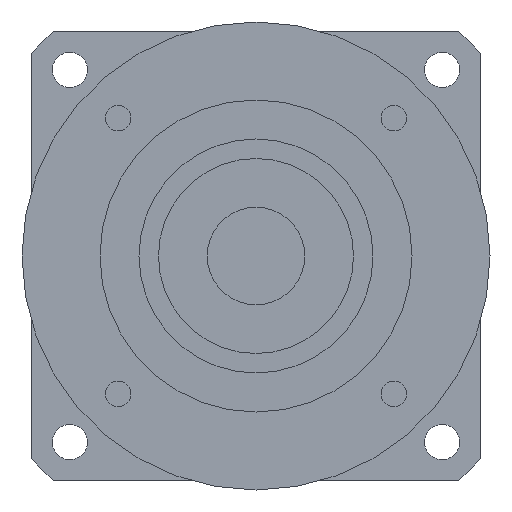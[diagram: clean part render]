
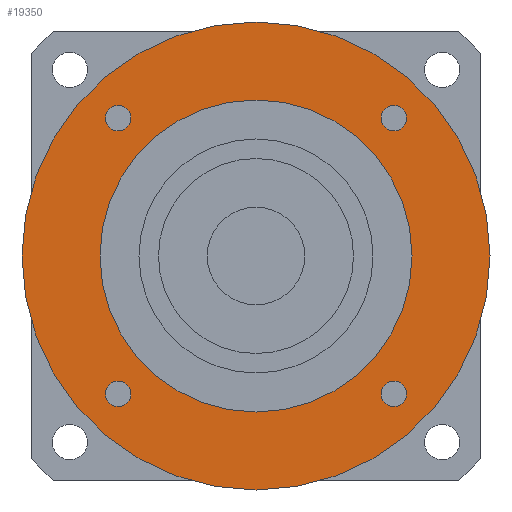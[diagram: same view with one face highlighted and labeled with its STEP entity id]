
A CAD part, left-side view. The second image highlights one B-rep face of the part: STEP entity #19350.
In plain terms, the highlighted planar face has unit normal (-1, 0, 0) as drawn and (0, 0, -1) by its records, which use the part's own axes.
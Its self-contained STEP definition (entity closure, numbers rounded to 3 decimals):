
#18020=CARTESIAN_POINT('',(60.,0.,-120.));
#18030=VERTEX_POINT('',#18020);
#18060=CARTESIAN_POINT('',(0.,0.,
-120.));
#18070=DIRECTION('',(0.,0.,1.));
#18080=DIRECTION('',(0.,-1.,0.));
#18090=AXIS2_PLACEMENT_3D('',#18060,#18070,#18080);
#18100=CIRCLE('',#18090,60.);
#18110=CARTESIAN_POINT('',(0.,-60.,-120.));
#18120=VERTEX_POINT('',#18110);
#18130=EDGE_CURVE('',#18120,#18030,#18100,.T.);
#18150=CARTESIAN_POINT('',(-60.,0.,-120.));
#18160=VERTEX_POINT('',#18150);
#18170=EDGE_CURVE('',#18160,#18120,#18100,.T.);
#18290=CARTESIAN_POINT('',(0.,0.,
-120.));
#18300=DIRECTION('',(0.,0.,1.));
#18310=DIRECTION('',(-1.,0.,0.));
#18320=AXIS2_PLACEMENT_3D('',#18290,#18300,#18310);
#18330=PLANE('',#18320);
#18340=CARTESIAN_POINT('',(35.355,-35.355,-120.));
#18350=DIRECTION('',(0.,0.,-1.));
#18360=DIRECTION('',(1.,0.,0.));
#18370=AXIS2_PLACEMENT_3D('',#18340,#18350,#18360);
#18380=CIRCLE('',#18370,3.25);
#18390=CARTESIAN_POINT('',(38.605,-35.355,-120.));
#18400=VERTEX_POINT('',#18390);
#18410=CARTESIAN_POINT('',(35.355,-38.605,-120.));
#18420=VERTEX_POINT('',#18410);
#18430=EDGE_CURVE('',#18400,#18420,#18380,.T.);
#18440=ORIENTED_EDGE('',*,*,#18430,.F.);
#18450=CARTESIAN_POINT('',(35.355,-32.105,-120.));
#18460=VERTEX_POINT('',#18450);
#18470=EDGE_CURVE('',#18420,#18460,#18380,.T.);
#18480=ORIENTED_EDGE('',*,*,#18470,.F.);
#18490=EDGE_CURVE('',#18460,#18400,#18380,.T.);
#18500=ORIENTED_EDGE('',*,*,#18490,.F.);
#18510=EDGE_LOOP('',(#18500,#18480,#18440));
#18520=FACE_BOUND('',#18510,.T.);
#18530=CARTESIAN_POINT('',(35.355,35.355,-120.));
#18540=DIRECTION('',(0.,0.,-1.));
#18550=DIRECTION('',(0.,1.,0.));
#18560=AXIS2_PLACEMENT_3D('',#18530,#18540,#18550);
#18570=CIRCLE('',#18560,3.25);
#18580=CARTESIAN_POINT('',(35.355,38.605,-120.));
#18590=VERTEX_POINT('',#18580);
#18600=CARTESIAN_POINT('',(38.605,35.355,-120.));
#18610=VERTEX_POINT('',#18600);
#18620=EDGE_CURVE('',#18590,#18610,#18570,.T.);
#18630=ORIENTED_EDGE('',*,*,#18620,.F.);
#18640=CARTESIAN_POINT('',(32.105,35.355,-120.));
#18650=VERTEX_POINT('',#18640);
#18660=EDGE_CURVE('',#18610,#18650,#18570,.T.);
#18670=ORIENTED_EDGE('',*,*,#18660,.F.);
#18680=EDGE_CURVE('',#18650,#18590,#18570,.T.);
#18690=ORIENTED_EDGE('',*,*,#18680,.F.);
#18700=EDGE_LOOP('',(#18690,#18670,#18630));
#18710=FACE_BOUND('',#18700,.T.);
#18720=CARTESIAN_POINT('',(-35.355,35.355,-120.));
#18730=DIRECTION('',(0.,0.,-1.));
#18740=DIRECTION('',(-1.,0.,0.));
#18750=AXIS2_PLACEMENT_3D('',#18720,#18730,#18740);
#18760=CIRCLE('',#18750,3.25);
#18770=CARTESIAN_POINT('',(-38.605,35.355,-120.));
#18780=VERTEX_POINT('',#18770);
#18790=CARTESIAN_POINT('',(-35.355,38.605,-120.));
#18800=VERTEX_POINT('',#18790);
#18810=EDGE_CURVE('',#18780,#18800,#18760,.T.);
#18820=ORIENTED_EDGE('',*,*,#18810,.F.);
#18830=CARTESIAN_POINT('',(-35.355,32.105,-120.));
#18840=VERTEX_POINT('',#18830);
#18850=EDGE_CURVE('',#18800,#18840,#18760,.T.);
#18860=ORIENTED_EDGE('',*,*,#18850,.F.);
#18870=EDGE_CURVE('',#18840,#18780,#18760,.T.);
#18880=ORIENTED_EDGE('',*,*,#18870,.F.);
#18890=EDGE_LOOP('',(#18880,#18860,#18820));
#18900=FACE_BOUND('',#18890,.T.);
#18910=CARTESIAN_POINT('',(-35.355,-35.355,-120.));
#18920=DIRECTION('',(0.,0.,-1.));
#18930=DIRECTION('',(0.,-1.,0.));
#18940=AXIS2_PLACEMENT_3D('',#18910,#18920,#18930);
#18950=CIRCLE('',#18940,3.25);
#18960=CARTESIAN_POINT('',(-35.355,-38.605,-120.));
#18970=VERTEX_POINT('',#18960);
#18980=CARTESIAN_POINT('',(-38.605,-35.355,-120.));
#18990=VERTEX_POINT('',#18980);
#19000=EDGE_CURVE('',#18970,#18990,#18950,.T.);
#19010=ORIENTED_EDGE('',*,*,#19000,.F.);
#19020=CARTESIAN_POINT('',(-32.105,-35.355,-120.));
#19030=VERTEX_POINT('',#19020);
#19040=EDGE_CURVE('',#18990,#19030,#18950,.T.);
#19050=ORIENTED_EDGE('',*,*,#19040,.F.);
#19060=EDGE_CURVE('',#19030,#18970,#18950,.T.);
#19070=ORIENTED_EDGE('',*,*,#19060,.F.);
#19080=EDGE_LOOP('',(#19070,#19050,#19010));
#19090=FACE_BOUND('',#19080,.T.);
#19100=ORIENTED_EDGE('',*,*,#18130,.F.);
#19110=EDGE_CURVE('',#18030,#18160,#18100,.T.);
#19120=ORIENTED_EDGE('',*,*,#19110,.F.);
#19130=ORIENTED_EDGE('',*,*,#18170,.F.);
#19140=EDGE_LOOP('',(#19130,#19120,#19100));
#19150=FACE_OUTER_BOUND('',#19140,.T.);
#19160=CARTESIAN_POINT('',(0.,0.,
-120.));
#19170=DIRECTION('',(0.,0.,1.));
#19180=DIRECTION('',(0.,-1.,0.));
#19190=AXIS2_PLACEMENT_3D('',#19160,#19170,#19180);
#19200=CIRCLE('',#19190,40.);
#19210=CARTESIAN_POINT('',(40.,0.,-120.));
#19220=VERTEX_POINT('',#19210);
#19230=CARTESIAN_POINT('',(-40.,0.,-120.));
#19240=VERTEX_POINT('',#19230);
#19250=EDGE_CURVE('',#19220,#19240,#19200,.T.);
#19260=ORIENTED_EDGE('',*,*,#19250,.T.);
#19270=CARTESIAN_POINT('',(0.,-40.,-120.));
#19280=VERTEX_POINT('',#19270);
#19290=EDGE_CURVE('',#19280,#19220,#19200,.T.);
#19300=ORIENTED_EDGE('',*,*,#19290,.T.);
#19310=EDGE_CURVE('',#19240,#19280,#19200,.T.);
#19320=ORIENTED_EDGE('',*,*,#19310,.T.);
#19330=EDGE_LOOP('',(#19320,#19300,#19260));
#19340=FACE_BOUND('',#19330,.T.);
#19350=ADVANCED_FACE('',(#18520,#18710,#18900,#19090,#19150,#19340),
#18330,.F.);
